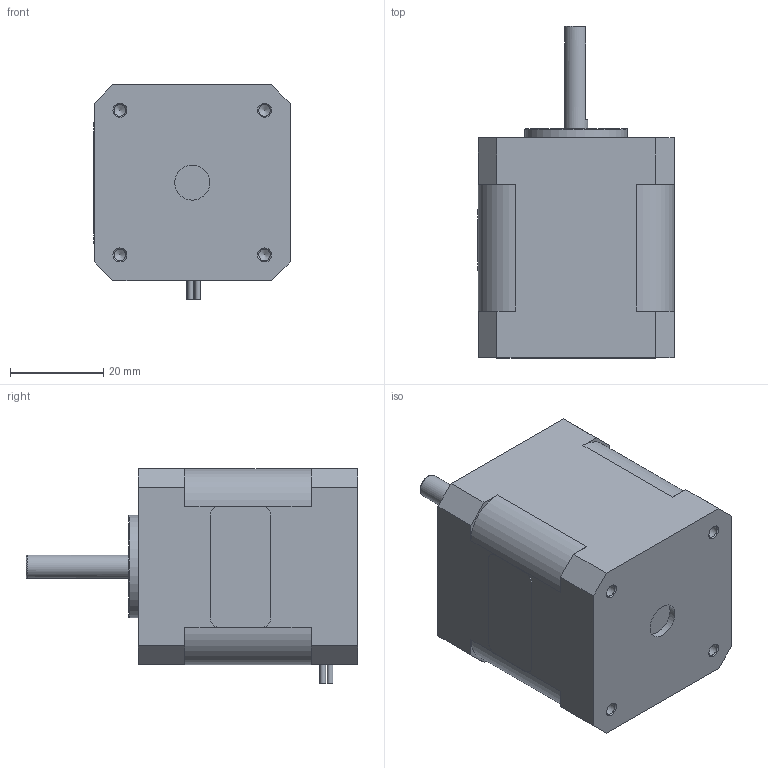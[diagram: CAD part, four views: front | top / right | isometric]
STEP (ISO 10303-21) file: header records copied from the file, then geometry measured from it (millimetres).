
FILE_DESCRIPTION(/* description */ (''),/* implementation_level */ '2;1');
FILE_NAME(/* name */ 'NEMA17.stp',/* time_stamp */ '2025-01-03T11:44:42+01:00',/* author */ ('R5800u'),/* organization */ (''),/* preprocessor_version */ 'ST-DEVELOPER v20',/* originating_system */ 'Autodesk Inventor 2025',/* authorisation */ '');
FILE_SCHEMA (('AUTOMOTIVE_DESIGN { 1 0 10303 214 3 1 1 }'));
Length unit declared in the file: millimetre
Products named in the file (1): NEMA17
Bounding box: 42.1 x 71.15 x 46 mm (x, y, z)
Volume: 81869.4 mm3; surface area: 11824.5 mm2
Topology: 1 solids, 1 shells, 88 faces, 208 edges, 132 vertices
Faces by surface type: plane 40, cylinder 29, cone 16, torus 3
Full cylindrical faces by diameter (mm): 1.25 x4, 2.5 x8, 5 x1, 7.5 x2, 22 x1, 33 x1
Entity records: 2698 total; most frequent: DIRECTION 447, CARTESIAN_POINT 439, ORIENTED_EDGE 400, EDGE_CURVE 200, AXIS2_PLACEMENT_3D 160, VERTEX_POINT 132, LINE 127, VECTOR 127
